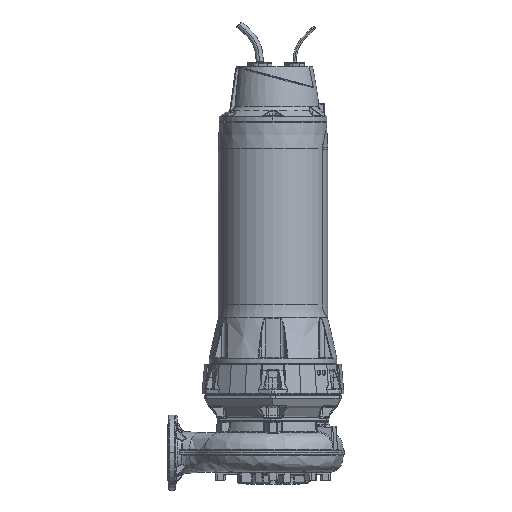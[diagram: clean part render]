
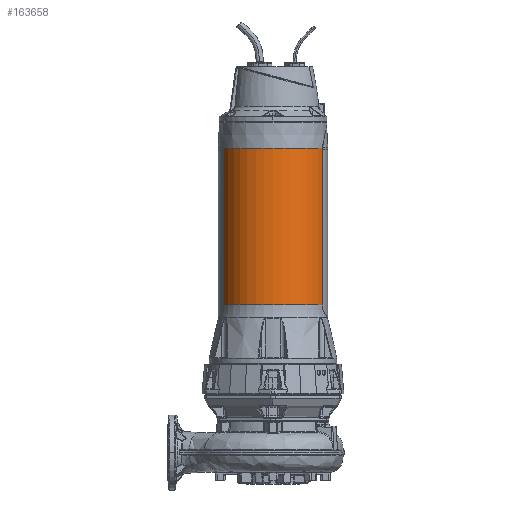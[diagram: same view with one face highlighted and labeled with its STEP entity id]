
A CAD part, top view. The second image highlights one B-rep face of the part: STEP entity #163658.
In plain terms, the highlighted cylindrical face has radius 202 mm (diameter 404 mm), a partial arc.
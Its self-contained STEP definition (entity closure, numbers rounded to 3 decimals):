
#11133 = EDGE_CURVE ( 'NONE', #30676, #88823, #68886, .T. ) ;
#11849 = LINE ( 'NONE', #104434, #86023 ) ;
#12908 = EDGE_CURVE ( 'NONE', #164712, #22720, #98229, .T. ) ;
#15671 = DIRECTION ( 'NONE',  ( 0., -1., 0. ) ) ;
#22485 = CARTESIAN_POINT ( 'NONE',  ( -186.075, 818.428, 78.614 ) ) ;
#22720 = VERTEX_POINT ( 'NONE', #156400 ) ;
#28332 = CARTESIAN_POINT ( 'NONE',  ( 0., 225.656, 0. ) ) ;
#30676 = VERTEX_POINT ( 'NONE', #156188 ) ;
#31188 = EDGE_LOOP ( 'NONE', ( #94154, #72856, #190943, #75796, #39472, #39048 ) ) ;
#32881 = AXIS2_PLACEMENT_3D ( 'NONE', #28332, #132074, #43246 ) ;
#39048 = ORIENTED_EDGE ( 'NONE', *, *, #57373, .T. ) ;
#39472 = ORIENTED_EDGE ( 'NONE', *, *, #12908, .T. ) ;
#43246 = DIRECTION ( 'NONE',  ( -1., 0., 0. ) ) ;
#43720 = DIRECTION ( 'NONE',  ( -1., 0., 0. ) ) ;
#49974 = CIRCLE ( 'NONE', #32881, 202. ) ;
#57101 = AXIS2_PLACEMENT_3D ( 'NONE', #150446, #61683, #165356 ) ;
#57373 = EDGE_CURVE ( 'NONE', #22720, #30676, #61304, .T. ) ;
#61304 = CIRCLE ( 'NONE', #57101, 202. ) ;
#61683 = DIRECTION ( 'NONE',  ( 0., -1., 0. ) ) ;
#64508 = VERTEX_POINT ( 'NONE', #78347 ) ;
#67154 = CARTESIAN_POINT ( 'NONE',  ( -186.176, 820.5, 78.374 ) ) ;
#68886 = B_SPLINE_CURVE_WITH_KNOTS ( 'NONE', 3,
 ( #67154, #126233, #22485, #170820 ),
 .UNSPECIFIED., .F., .F.,
 ( 4, 4 ),
 ( 0., 0.003 ),
 .UNSPECIFIED. ) ;
#68978 = DIRECTION ( 'NONE',  ( 0., 1., 0. ) ) ;
#72856 = ORIENTED_EDGE ( 'NONE', *, *, #85229, .T. ) ;
#75796 = ORIENTED_EDGE ( 'NONE', *, *, #161456, .T. ) ;
#78347 = CARTESIAN_POINT ( 'NONE',  ( -186.075, 225.656, 78.614 ) ) ;
#80367 = VERTEX_POINT ( 'NONE', #166013 ) ;
#84253 = CARTESIAN_POINT ( 'NONE',  ( 186.176, 820.5, 78.374 ) ) ;
#85229 = EDGE_CURVE ( 'NONE', #88823, #64508, #11849, .T. ) ;
#86023 = VECTOR ( 'NONE', #15671, 1000. ) ;
#88823 = VERTEX_POINT ( 'NONE', #159942 ) ;
#92899 = EDGE_CURVE ( 'NONE', #80367, #64508, #49974, .T. ) ;
#94154 = ORIENTED_EDGE ( 'NONE', *, *, #11133, .T. ) ;
#98229 = B_SPLINE_CURVE_WITH_KNOTS ( 'NONE', 3,
 ( #173011, #158083, #184107, #84253 ),
 .UNSPECIFIED., .F., .F.,
 ( 4, 4 ),
 ( 0., 0.003 ),
 .UNSPECIFIED. ) ;
#100707 = LINE ( 'NONE', #187587, #174888 ) ;
#104434 = CARTESIAN_POINT ( 'NONE',  ( -186.075, -106.33, 78.614 ) ) ;
#111239 = AXIS2_PLACEMENT_3D ( 'NONE', #161671, #176592, #43720 ) ;
#126233 = CARTESIAN_POINT ( 'NONE',  ( -186.109, 819.468, 78.533 ) ) ;
#127284 = FACE_OUTER_BOUND ( 'NONE', #31188, .T. ) ;
#132074 = DIRECTION ( 'NONE',  ( 0., -1., 0. ) ) ;
#132827 = CARTESIAN_POINT ( 'NONE',  ( 186.075, 817.381, 78.614 ) ) ;
#147995 = CYLINDRICAL_SURFACE ( 'NONE', #111239, 202. ) ;
#150446 = CARTESIAN_POINT ( 'NONE',  ( 0., 820.5, 0. ) ) ;
#156188 = CARTESIAN_POINT ( 'NONE',  ( -186.176, 820.5, 78.374 ) ) ;
#156400 = CARTESIAN_POINT ( 'NONE',  ( 186.176, 820.5, 78.374 ) ) ;
#158083 = CARTESIAN_POINT ( 'NONE',  ( 186.075, 818.428, 78.614 ) ) ;
#159942 = CARTESIAN_POINT ( 'NONE',  ( -186.075, 817.381, 78.614 ) ) ;
#161456 = EDGE_CURVE ( 'NONE', #80367, #164712, #100707, .T. ) ;
#161671 = CARTESIAN_POINT ( 'NONE',  ( 0., -106.33, 0. ) ) ;
#163658 = ADVANCED_FACE ( 'NONE', ( #127284 ), #147995, .T. ) ;
#164712 = VERTEX_POINT ( 'NONE', #132827 ) ;
#165356 = DIRECTION ( 'NONE',  ( -1., 0., 0. ) ) ;
#166013 = CARTESIAN_POINT ( 'NONE',  ( 186.075, 225.656, 78.614 ) ) ;
#170820 = CARTESIAN_POINT ( 'NONE',  ( -186.075, 817.381, 78.614 ) ) ;
#173011 = CARTESIAN_POINT ( 'NONE',  ( 186.075, 817.381, 78.614 ) ) ;
#174888 = VECTOR ( 'NONE', #68978, 1000. ) ;
#176592 = DIRECTION ( 'NONE',  ( 0., -1., 0. ) ) ;
#184107 = CARTESIAN_POINT ( 'NONE',  ( 186.109, 819.468, 78.533 ) ) ;
#187587 = CARTESIAN_POINT ( 'NONE',  ( 186.075, -106.33, 78.614 ) ) ;
#190943 = ORIENTED_EDGE ( 'NONE', *, *, #92899, .F. ) ;
